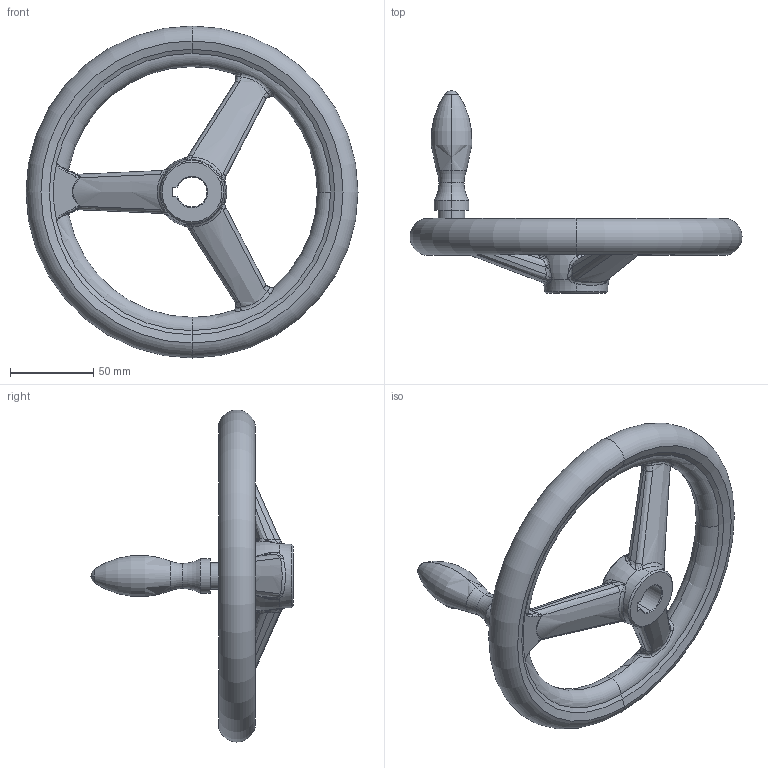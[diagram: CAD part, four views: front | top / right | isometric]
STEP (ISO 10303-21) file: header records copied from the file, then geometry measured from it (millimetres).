
FILE_DESCRIPTION (( 'STEP AP203' ), '1' );
FILE_NAME ('din950_f3_200x18.step', '2010-03-23T10:24:16', ( '_' ), ( '_' ), 'SwSTEP 2.0', 'SolidWorks 2010', '' );
FILE_SCHEMA (( 'CONFIG_CONTROL_DESIGN' ));
Length unit declared in the file: millimetre
Products named in the file (1): din950_f3_200x18
Bounding box: 200 x 122 x 200 mm (x, y, z)
Volume: 316483.3 mm3; surface area: 60801 mm2
Topology: 1 solids, 1 shells, 238 faces, 582 edges, 314 vertices
Faces by surface type: bspline 164, torus 28, cone 18, plane 14, cylinder 12, sphere 2
Entity records: 27073 total; most frequent: CARTESIAN_POINT 22570, ORIENTED_EDGE 1108, DIRECTION 612, EDGE_CURVE 554, VERTEX_POINT 314, B_SPLINE_CURVE_WITH_KNOTS 301, AXIS2_PLACEMENT_3D 288, EDGE_LOOP 242
